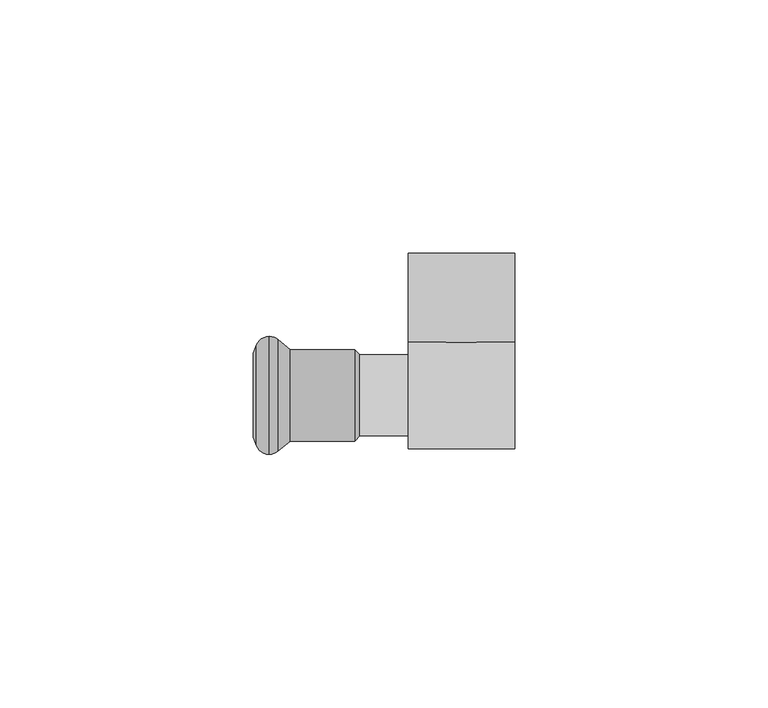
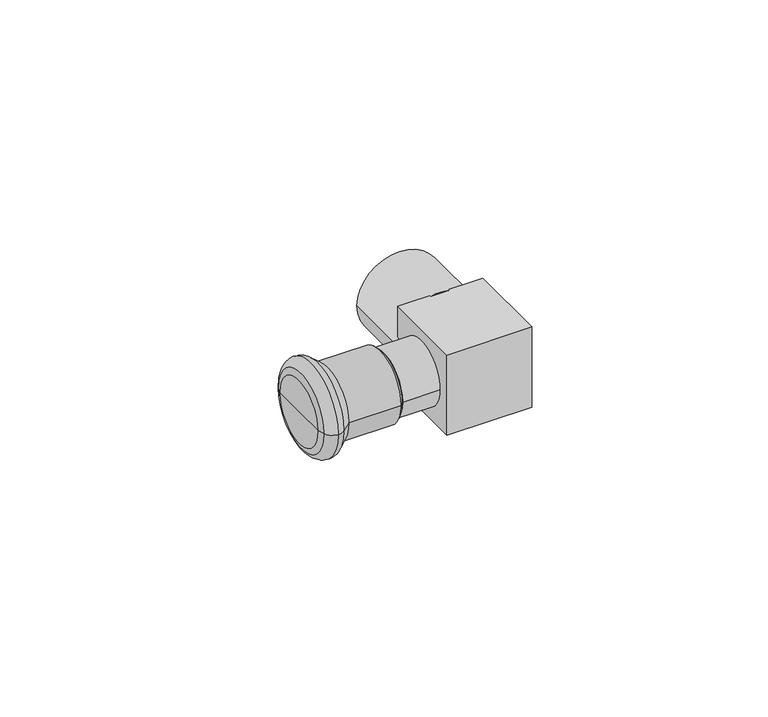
"""IFC4 building model written with IfcOpenShell, lengths in millimetres: pipe fitting geometry, KAN-therm Steel kolano z GZ krótkie : KAN-therm Steel kolano z GZ krótkie."""

from ifc_helpers import new_model, si_unit, point, frame, origin, origin_2d, place, context, project, spatial, polyline, circle_curve, ellipse_curve, trimmed, segment, composite_curve, outline, extrude, source, transform, mapped, element, save
from ifc_brep_helpers import plane_surface, cylinder_surface, revolved_surface, advanced_brep


def pipe_fitting_f7e382dc(model_context):
    return source(origin(), model_context, "Body", "SolidModel", [
        extrude(outline(composite_curve([segment(trimmed(circle_curve(origin_2d(), 10.5), [point((0.0, -10.5))], [point((0.0, 10.5))], False, "CARTESIAN"), True, "CONTINUOUS"), segment(trimmed(circle_curve(origin_2d(), 10.5), [point((0.0, 10.5))], [point((0.0, -10.5))], False, "CARTESIAN"), True, "CONTINUOUS")], self_intersect=False)), frame((0.0, 10.5, 0.0), z_axis=(0.0, 1.0, 0.0), x_axis=(0.0, 0.0, 1.0)), (0.0, 0.0, 1.0), 17.5),
        extrude(outline(polyline([(-10.5, -10.5), (-10.5, 10.5), (10.5, 10.5), (10.5, -10.5), (-10.5, -10.5)])), frame((0.0, 0.0, -10.5), z_axis=(0.0, 0.0, 1.0), x_axis=(1.0, 0.0, 0.0)), (0.0, 0.0, 1.0), 21.0),
        extrude(outline(composite_curve([segment(trimmed(circle_curve(origin_2d(), 8.0), [point((8.0, 0.0))], [point((-8.0, 0.0))], False, "CARTESIAN"), True, "CONTINUOUS"), segment(trimmed(circle_curve(origin_2d(), 8.0), [point((-8.0, 0.0))], [point((8.0, 0.0))], False, "CARTESIAN"), True, "CONTINUOUS")], self_intersect=False)), frame((-20.0, 0.0, 0.0), z_axis=(1.0, 0.0, 0.0), x_axis=(0.0, 1.0, 0.0)), (0.0, 0.0, 1.0), 9.5),
        advanced_brep(
        [(-33.7838092, -9.0, 0.0), (-33.7838092, 9.0, 0.0), (-21.0, 9.0, 0.0), (-21.0, -9.0, 0.0), (-36.0922627, -10.9370225, 0.0), (-36.0922627, 10.9370225, 0.0), (-37.8921278, -11.625, 0.0), (-37.8921278, 11.625, 0.0), (-40.432052, -9.8484544, 0.0), (-40.432052, 9.8484544, 0.0), (-41.0, -8.2880302, 0.0), (-41.0, 8.2880302, 0.0), (-41.0, 0.0, 0.0), (-20.0, 8.0, 0.0), (-20.0, -8.0, 0.0), (-20.0, 0.0, 0.0)],
        [
            (0, 1, circle_curve(frame((-33.7838092, 0.0, 0.0), z_axis=(1.0, 0.0, 0.0), x_axis=(0.0, 1.0, 0.0)), 9.0)),
            (1, 2),
            (2, 3, circle_curve(frame((-21.0, 0.0, 0.0), z_axis=(-1.0, 0.0, 0.0), x_axis=(0.0, 1.0, 0.0)), 9.0)),
            (3, 0),
            (1, 0, circle_curve(frame((-33.7838092, 0.0, 0.0), z_axis=(1.0, 0.0, 0.0), x_axis=(0.0, 1.0, 0.0)), 9.0)),
            (3, 2, circle_curve(frame((-21.0, 0.0, 0.0), z_axis=(-1.0, 0.0, 0.0), x_axis=(0.0, 1.0, 0.0)), 9.0)),
            (4, 5, circle_curve(frame((-36.0922627, 0.0, 0.0), z_axis=(1.0, 0.0, 0.0), x_axis=(0.0, 1.0, 0.0)), 10.9370225)),
            (5, 1),
            (0, 4),
            (5, 4, circle_curve(frame((-36.0922627, 0.0, 0.0), z_axis=(1.0, 0.0, 0.0), x_axis=(0.0, 1.0, 0.0)), 10.9370225)),
            (6, 7, circle_curve(frame((-37.8921278, 0.0, 0.0), z_axis=(1.0, 0.0, 0.0), x_axis=(0.0, 1.0, 0.0)), 11.625)),
            (7, 5, circle_curve(frame((-37.8935049, 8.9230333, 0.0), z_axis=(0.0, 0.0, -1.0), x_axis=(1.0, 0.0, 0.0)), 2.701967)),
            (4, 6, circle_curve(frame((-37.8935049, -8.9230333, 0.0), z_axis=(0.0, 0.0, -1.0), x_axis=(1.0, 0.0, 0.0)), 2.701967)),
            (7, 6, circle_curve(frame((-37.8921278, 0.0, 0.0), z_axis=(1.0, 0.0, 0.0), x_axis=(0.0, 1.0, 0.0)), 11.625)),
            (8, 9, circle_curve(frame((-40.432052, 0.0, 0.0), z_axis=(1.0, 0.0, 0.0), x_axis=(0.0, 1.0, 0.0)), 9.8484544)),
            (9, 7, circle_curve(frame((-37.89488, 8.9249993, 0.0), z_axis=(0.0, 0.0, -1.0), x_axis=(1.0, 0.0, 0.0)), 2.7000021)),
            (6, 8, circle_curve(frame((-37.89488, -8.9249993, 0.0), z_axis=(0.0, 0.0, -1.0), x_axis=(1.0, 0.0, 0.0)), 2.7000021)),
            (9, 8, circle_curve(frame((-40.432052, 0.0, 0.0), z_axis=(1.0, 0.0, 0.0), x_axis=(0.0, 1.0, 0.0)), 9.8484544)),
            (10, 11, circle_curve(frame((-41.0, 0.0, 0.0), z_axis=(1.0, 0.0, 0.0), x_axis=(0.0, 1.0, 0.0)), 8.2880302)),
            (11, 9),
            (8, 10),
            (11, 10, circle_curve(frame((-41.0, 0.0, 0.0), z_axis=(1.0, 0.0, 0.0), x_axis=(0.0, 1.0, 0.0)), 8.2880302)),
            (12, 11),
            (10, 12),
            (2, 13),
            (13, 14, circle_curve(frame((-20.0, 0.0, 0.0), z_axis=(-1.0, 0.0, 0.0), x_axis=(0.0, 1.0, 0.0)), 8.0)),
            (14, 3),
            (14, 13, circle_curve(frame((-20.0, 0.0, 0.0), z_axis=(-1.0, 0.0, 0.0), x_axis=(0.0, 1.0, 0.0)), 8.0)),
            (13, 15),
            (15, 14),
        ],
        [
            cylinder_surface(frame((1334.742668, 0.0, 0.0), z_axis=(-1.0, 0.0, 0.0), x_axis=(0.0, 1.0, 0.0)), 9.0),
            revolved_surface(polyline([(-33.7838092, 9.0, 0.0), (-36.0922627, 10.9370225, 0.0)]), (1334.742668, 0.0, 0.0), (-1.0, 0.0, 0.0)),
            revolved_surface(trimmed(ellipse_curve(frame((-37.8935049, 8.9230333, 0.0), z_axis=(0.0, 0.0, 1.0), x_axis=(1.0, 0.0, 0.0)), 2.701967, 2.701967), [point((-36.0922627, 10.9370225, 0.0))], [point((-37.8921278, 11.625, 0.0))], True, "CARTESIAN"), (1334.742668, 0.0, 0.0), (-1.0, 0.0, 0.0)),
            revolved_surface(trimmed(ellipse_curve(frame((-37.89488, 8.9249993, 0.0), z_axis=(0.0, 0.0, 1.0), x_axis=(1.0, 0.0, 0.0)), 2.7000021, 2.7000021), [point((-37.8921278, 11.625, 0.0))], [point((-40.432052, 9.8484544, 0.0))], True, "CARTESIAN"), (1334.742668, 0.0, 0.0), (-1.0, 0.0, 0.0)),
            revolved_surface(polyline([(-40.432052, 9.8484544, 0.0), (-41.0, 8.2880302, 0.0)]), (1334.742668, 0.0, 0.0), (-1.0, 0.0, 0.0)),
            plane_surface(frame((-41.0, 0.0, 0.0), z_axis=(-1.0, 0.0, 0.0), x_axis=(0.0, 1.0, 0.0))),
            revolved_surface(polyline([(-20.0, 8.0, 0.0), (-21.0, 9.0, 0.0)]), (1334.742668, 0.0, 0.0), (-1.0, 0.0, 0.0)),
            plane_surface(frame((-20.0, 0.0, 0.0), z_axis=(1.0, 0.0, 0.0), x_axis=(0.0, 1.0, 0.0))),
        ],
        [
            (0, [[1, 2, 3, 4]]),
            (0, [[5, -4, 6, -2]]),
            (1, [[7, 8, -1, 9]]),
            (1, [[10, -9, -5, -8]]),
            (2, [[11, 12, -7, 13]]),
            (2, [[14, -13, -10, -12]]),
            (3, [[15, 16, -11, 17]]),
            (3, [[18, -17, -14, -16]]),
            (4, [[19, 20, -15, 21]]),
            (4, [[22, -21, -18, -20]]),
            (5, [[23, -19, 24]]),
            (5, [[-24, -22, -23]]),
            (6, [[-3, 25, 26, 27]]),
            (6, [[-6, -27, 28, -25]]),
            (7, [[-26, 29, 30]]),
            (7, [[-28, -30, -29]]),
        ],
    ),
    ])


if __name__ == "__main__":
    model = new_model("IFC4")
    model_context = context("Model", 3, world=origin())
    ifc_project = project(units=[si_unit("LENGTHUNIT", "METRE", prefix="MILLI")], contexts=[model_context])
    site = spatial("IfcSite", under=ifc_project)
    building = spatial("IfcBuilding", under=site)
    placement = place(None, origin())
    pipe_fitting_shape = pipe_fitting_f7e382dc(model_context)
    element("IfcPipeFitting", 1, ObjectType="KAN-therm Steel kolano z GZ krótkie : KAN-therm Steel kolano z GZ krótkie", at=placement, inside=building, context=model_context, shape_type="MappedRepresentation", body=[
        mapped(pipe_fitting_shape, transform((0.0, 0.0, 0.0), x_axis=(1.0, 0.0, 0.0), y_axis=(0.0, 1.0, 0.0), z_axis=(0.0, 0.0, 1.0))),
    ])
    save(model, "model.ifc")
